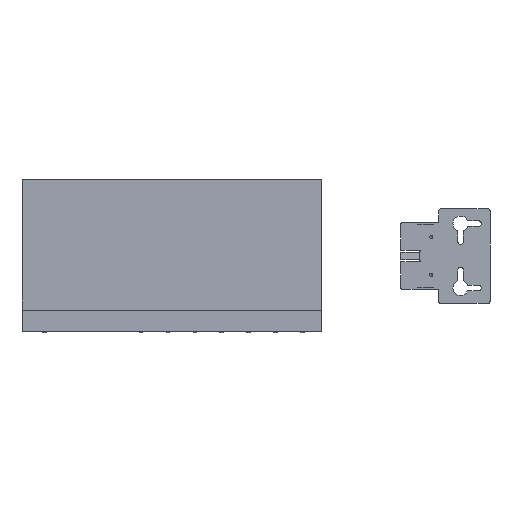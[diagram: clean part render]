
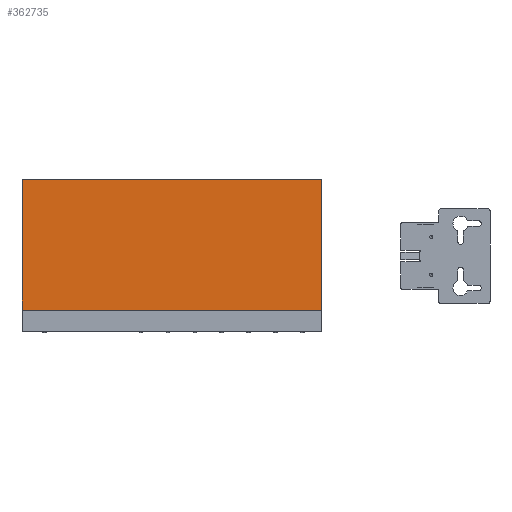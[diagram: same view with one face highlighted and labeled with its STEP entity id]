
A CAD part, top view. The second image highlights one B-rep face of the part: STEP entity #362735.
In plain terms, the highlighted planar face has unit normal (0, 0, 1).
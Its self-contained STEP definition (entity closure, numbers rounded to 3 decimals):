
#11481 = PLANE('',#11482);
#11482 = AXIS2_PLACEMENT_3D('',#11483,#11484,#11485);
#11483 = CARTESIAN_POINT('',(0.,48.387,16.105));
#11484 = DIRECTION('',(-1.,-0.,-0.));
#11485 = DIRECTION('',(0.,0.,-1.));
#12648 = PLANE('',#12649);
#12649 = AXIS2_PLACEMENT_3D('',#12650,#12651,#12652);
#12650 = CARTESIAN_POINT('',(158.,48.387,16.105));
#12651 = DIRECTION('',(1.,0.,0.));
#12652 = DIRECTION('',(-0.,0.,1.));
#325534 = PLANE('',#325535);
#325535 = AXIS2_PLACEMENT_3D('',#325536,#325537,#325538);
#325536 = CARTESIAN_POINT('',(79.,11.3,31.7));
#325537 = DIRECTION('',(0.,-1.,0.));
#325538 = DIRECTION('',(0.,0.,-1.));
#349594 = EDGE_CURVE('',#349595,#349597,#349599,.T.);
#349595 = VERTEX_POINT('',#349596);
#349596 = CARTESIAN_POINT('',(158.,11.3,32.2));
#349597 = VERTEX_POINT('',#349598);
#349598 = CARTESIAN_POINT('',(0.,11.3,32.2));
#349599 = SURFACE_CURVE('',#349600,(#349604,#349611),.PCURVE_S1.);
#349600 = LINE('',#349601,#349602);
#349601 = CARTESIAN_POINT('',(0.,11.3,32.2));
#349602 = VECTOR('',#349603,1.);
#349603 = DIRECTION('',(-1.,0.,0.));
#349604 = PCURVE('',#325534,#349605);
#349605 = DEFINITIONAL_REPRESENTATION('',(#349606),#349610);
#349606 = LINE('',#349607,#349608);
#349607 = CARTESIAN_POINT('',(-0.5,-79.));
#349608 = VECTOR('',#349609,1.);
#349609 = DIRECTION('',(0.,-1.));
#349610 = ( GEOMETRIC_REPRESENTATION_CONTEXT(2) 
PARAMETRIC_REPRESENTATION_CONTEXT() REPRESENTATION_CONTEXT('2D SPACE',''
  ) );
#349611 = PCURVE('',#349612,#349617);
#349612 = PLANE('',#349613);
#349613 = AXIS2_PLACEMENT_3D('',#349614,#349615,#349616);
#349614 = CARTESIAN_POINT('',(0.,0.,32.2));
#349615 = DIRECTION('',(0.,0.,1.));
#349616 = DIRECTION('',(1.,0.,0.));
#349617 = DEFINITIONAL_REPRESENTATION('',(#349618),#349622);
#349618 = LINE('',#349619,#349620);
#349619 = CARTESIAN_POINT('',(0.,11.3));
#349620 = VECTOR('',#349621,1.);
#349621 = DIRECTION('',(-1.,0.));
#349622 = ( GEOMETRIC_REPRESENTATION_CONTEXT(2) 
PARAMETRIC_REPRESENTATION_CONTEXT() REPRESENTATION_CONTEXT('2D SPACE',''
  ) );
#362735 = ADVANCED_FACE('',(#362736),#349612,.T.);
#362736 = FACE_BOUND('',#362737,.T.);
#362737 = EDGE_LOOP('',(#362738,#362761,#362762,#362785));
#362738 = ORIENTED_EDGE('',*,*,#362739,.F.);
#362739 = EDGE_CURVE('',#349597,#362740,#362742,.T.);
#362740 = VERTEX_POINT('',#362741);
#362741 = CARTESIAN_POINT('',(0.,80.3,32.2));
#362742 = SURFACE_CURVE('',#362743,(#362747,#362754),.PCURVE_S1.);
#362743 = LINE('',#362744,#362745);
#362744 = CARTESIAN_POINT('',(0.,0.,32.2));
#362745 = VECTOR('',#362746,1.);
#362746 = DIRECTION('',(0.,1.,0.));
#362747 = PCURVE('',#349612,#362748);
#362748 = DEFINITIONAL_REPRESENTATION('',(#362749),#362753);
#362749 = LINE('',#362750,#362751);
#362750 = CARTESIAN_POINT('',(0.,0.));
#362751 = VECTOR('',#362752,1.);
#362752 = DIRECTION('',(0.,1.));
#362753 = ( GEOMETRIC_REPRESENTATION_CONTEXT(2) 
PARAMETRIC_REPRESENTATION_CONTEXT() REPRESENTATION_CONTEXT('2D SPACE',''
  ) );
#362754 = PCURVE('',#11481,#362755);
#362755 = DEFINITIONAL_REPRESENTATION('',(#362756),#362760);
#362756 = LINE('',#362757,#362758);
#362757 = CARTESIAN_POINT('',(-16.095,48.387));
#362758 = VECTOR('',#362759,1.);
#362759 = DIRECTION('',(0.,-1.));
#362760 = ( GEOMETRIC_REPRESENTATION_CONTEXT(2) 
PARAMETRIC_REPRESENTATION_CONTEXT() REPRESENTATION_CONTEXT('2D SPACE',''
  ) );
#362761 = ORIENTED_EDGE('',*,*,#349594,.F.);
#362762 = ORIENTED_EDGE('',*,*,#362763,.T.);
#362763 = EDGE_CURVE('',#349595,#362764,#362766,.T.);
#362764 = VERTEX_POINT('',#362765);
#362765 = CARTESIAN_POINT('',(158.,80.3,32.2));
#362766 = SURFACE_CURVE('',#362767,(#362771,#362778),.PCURVE_S1.);
#362767 = LINE('',#362768,#362769);
#362768 = CARTESIAN_POINT('',(158.,0.,32.2));
#362769 = VECTOR('',#362770,1.);
#362770 = DIRECTION('',(0.,1.,0.));
#362771 = PCURVE('',#349612,#362772);
#362772 = DEFINITIONAL_REPRESENTATION('',(#362773),#362777);
#362773 = LINE('',#362774,#362775);
#362774 = CARTESIAN_POINT('',(158.,0.));
#362775 = VECTOR('',#362776,1.);
#362776 = DIRECTION('',(0.,1.));
#362777 = ( GEOMETRIC_REPRESENTATION_CONTEXT(2) 
PARAMETRIC_REPRESENTATION_CONTEXT() REPRESENTATION_CONTEXT('2D SPACE',''
  ) );
#362778 = PCURVE('',#12648,#362779);
#362779 = DEFINITIONAL_REPRESENTATION('',(#362780),#362784);
#362780 = LINE('',#362781,#362782);
#362781 = CARTESIAN_POINT('',(16.095,48.387));
#362782 = VECTOR('',#362783,1.);
#362783 = DIRECTION('',(0.,-1.));
#362784 = ( GEOMETRIC_REPRESENTATION_CONTEXT(2) 
PARAMETRIC_REPRESENTATION_CONTEXT() REPRESENTATION_CONTEXT('2D SPACE',''
  ) );
#362785 = ORIENTED_EDGE('',*,*,#362786,.F.);
#362786 = EDGE_CURVE('',#362740,#362764,#362787,.T.);
#362787 = SURFACE_CURVE('',#362788,(#362792,#362799),.PCURVE_S1.);
#362788 = LINE('',#362789,#362790);
#362789 = CARTESIAN_POINT('',(0.,80.3,32.2));
#362790 = VECTOR('',#362791,1.);
#362791 = DIRECTION('',(1.,0.,0.));
#362792 = PCURVE('',#349612,#362793);
#362793 = DEFINITIONAL_REPRESENTATION('',(#362794),#362798);
#362794 = LINE('',#362795,#362796);
#362795 = CARTESIAN_POINT('',(0.,80.3));
#362796 = VECTOR('',#362797,1.);
#362797 = DIRECTION('',(1.,0.));
#362798 = ( GEOMETRIC_REPRESENTATION_CONTEXT(2) 
PARAMETRIC_REPRESENTATION_CONTEXT() REPRESENTATION_CONTEXT('2D SPACE',''
  ) );
#362799 = PCURVE('',#362800,#362805);
#362800 = PLANE('',#362801);
#362801 = AXIS2_PLACEMENT_3D('',#362802,#362803,#362804);
#362802 = CARTESIAN_POINT('',(0.,80.3,0.));
#362803 = DIRECTION('',(0.,1.,0.));
#362804 = DIRECTION('',(0.,0.,1.));
#362805 = DEFINITIONAL_REPRESENTATION('',(#362806),#362810);
#362806 = LINE('',#362807,#362808);
#362807 = CARTESIAN_POINT('',(32.2,0.));
#362808 = VECTOR('',#362809,1.);
#362809 = DIRECTION('',(0.,1.));
#362810 = ( GEOMETRIC_REPRESENTATION_CONTEXT(2) 
PARAMETRIC_REPRESENTATION_CONTEXT() REPRESENTATION_CONTEXT('2D SPACE',''
  ) );
